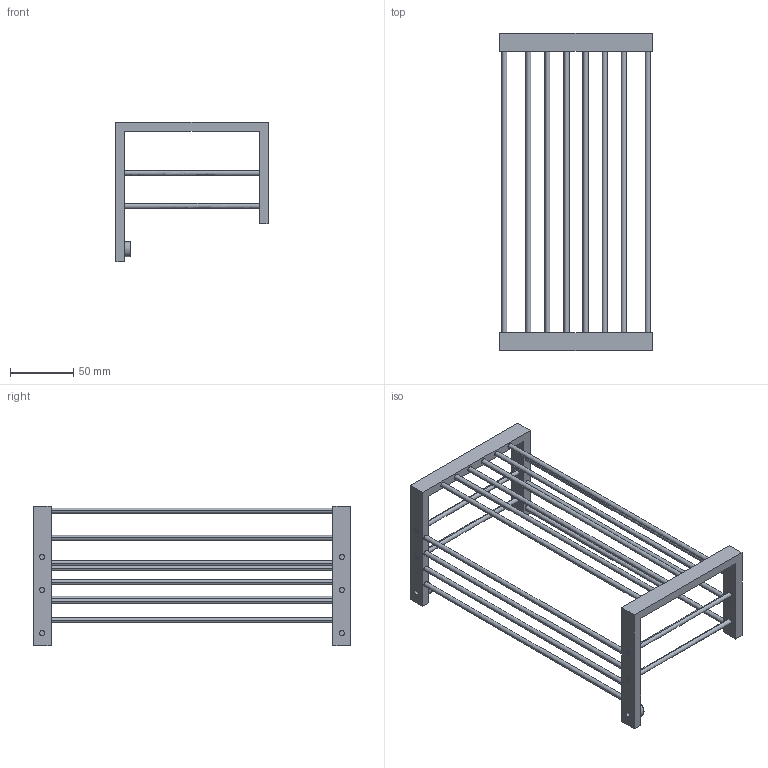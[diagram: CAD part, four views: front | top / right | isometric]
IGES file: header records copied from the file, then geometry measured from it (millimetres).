
Start section: SolidWorks IGES file using analytic representation for surfaces
Global section: file name: D:\Weijuan\Desktop\146023002VW.IGS; native system: SolidWorks 2010; preprocessor: SolidWorks 2010; author: weijuan; date: 151218.163157; units: inch
Bounding box: 120 x 250 x 110 mm (x, y, z)
Surface area: 70430 mm2 (no closed solid volume)
Topology: 0 solids, 0 shells, 80 faces, 1048 edges, 1048 vertices
Faces by surface type: revolution 54, bspline 26
